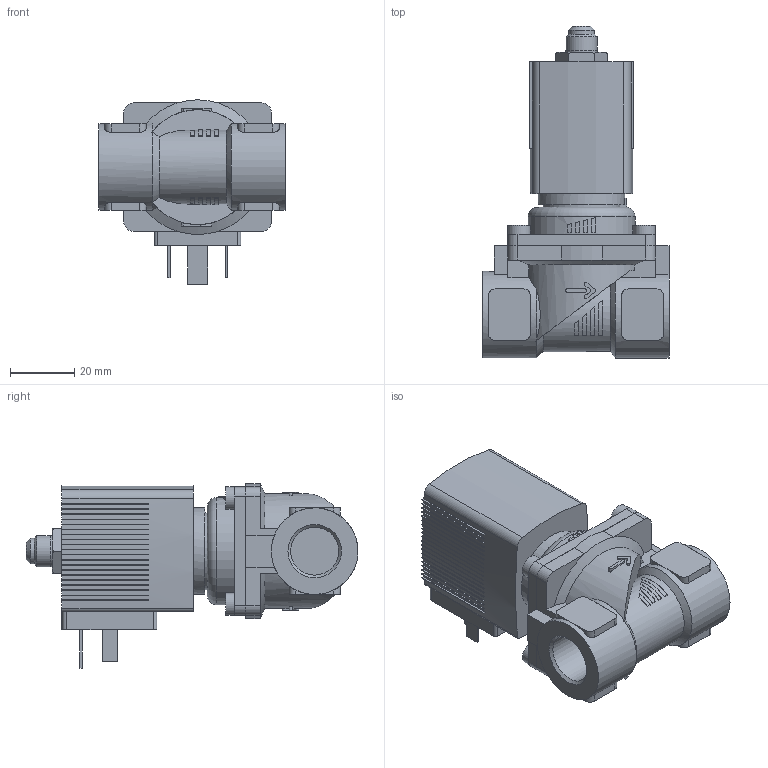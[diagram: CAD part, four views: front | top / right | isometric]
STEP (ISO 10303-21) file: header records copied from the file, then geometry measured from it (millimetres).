
FILE_DESCRIPTION(/* description */ ('STEP AP214'),/* implementation_level */ '2;1');
FILE_NAME(/* name */ '6281-310659-2_2-Way_Solenoid_Valve__Servo-assisted__General_Purpose',/* time_stamp */ '2024-05-14T17:35:29+02:00',/* author */ ('License CC BY-ND 4.0'),/* organization */ ('CADENAS'),/* preprocessor_version */ 'ST-DEVELOPER v19.3',/* originating_system */ 'PARTsolutions',/* authorisation */ ' ');
FILE_SCHEMA (('AUTOMOTIVE_DESIGN {1 0 10303 214 3 1 1}'));
Length unit declared in the file: millimetre
Products named in the file (4): 6281-310659-2/2-Way Solenoid Valve, Servo-assisted, General Purpose; 5281ev130MS2/2-Wege-Magnetventil mit Servomembran-Deckel  MX62 ; 6213-13G3/8MS-Gehaeuse-; AC10ex-5OO-Gewinde-Coil
Assembly tree (3 placements, depth 2):
  6281-310659-2/2-Way Solenoid Valve, Servo-assisted, General Purpose
    5281ev130MS2/2-Wege-Magnetventil mit Servomembran-Deckel  MX62 
    6213-13G3/8MS-Gehaeuse-
    AC10ex-5OO-Gewinde-Coil
Bounding box: 58 x 103.5 x 57.5 mm (x, y, z)
Volume: 115095.5 mm3; surface area: 27743 mm2
Topology: 3 solids, 3 shells, 519 faces, 1416 edges, 933 vertices
Faces by surface type: plane 419, cylinder 82, cone 17, torus 1
Full cylindrical faces by diameter (mm): 2.013 x1, 2.7 x1, 7 x4, 8 x1, 9.73 x1, 9.74 x1, 14.95 x2, 27 x2, 33.4 x1
Entity records: 18780 total; most frequent: CARTESIAN_POINT 3062, ORIENTED_EDGE 2768, DIRECTION 2682, EDGE_CURVE 1384, LINE 1008, VECTOR 1008, VERTEX_POINT 922, AXIS2_PLACEMENT_3D 837
